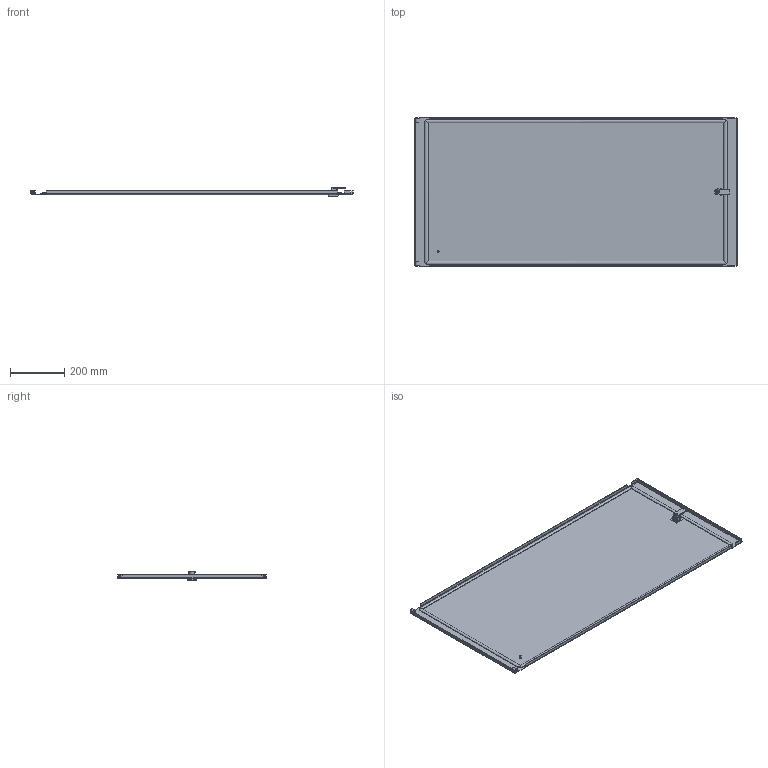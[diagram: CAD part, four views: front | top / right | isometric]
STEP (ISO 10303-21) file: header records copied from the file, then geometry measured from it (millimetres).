
FILE_DESCRIPTION(('STEP AP203'), '1');
FILE_NAME('Äâåðü ñåêöèîííàÿ 550õ1200 ìì OptiBox M 419973 ÊÝÀÇ', '', ('UNSPECIFIED'), ('UNSPECIFIED'), 'C3D Converter', 'C3D Toolkit', '');
FILE_SCHEMA(('CONFIG_CONTROL_DESIGN'));
Length unit declared in the file: millimetre
Bounding box: 1186.4 x 547 x 32.2 mm (x, y, z)
Volume: 1535715.3 mm3; surface area: 1484606.2 mm2
Topology: 6 solids, 6 shells, 355 faces, 928 edges, 588 vertices
Faces by surface type: plane 252, cylinder 92, bspline 8, cone 2, torus 1
Full cylindrical faces by diameter (mm): 0.75 x1, 1 x1, 3 x1, 5 x2, 6 x1, 7.5 x1, 9.3 x1, 10 x1, 20 x1
Entity records: 11864 total; most frequent: CARTESIAN_POINT 3095, ORIENTED_EDGE 1830, DIRECTION 1731, EDGE_CURVE 915, LINE 705, VECTOR 705, VERTEX_POINT 588, AXIS2_PLACEMENT_3D 513
